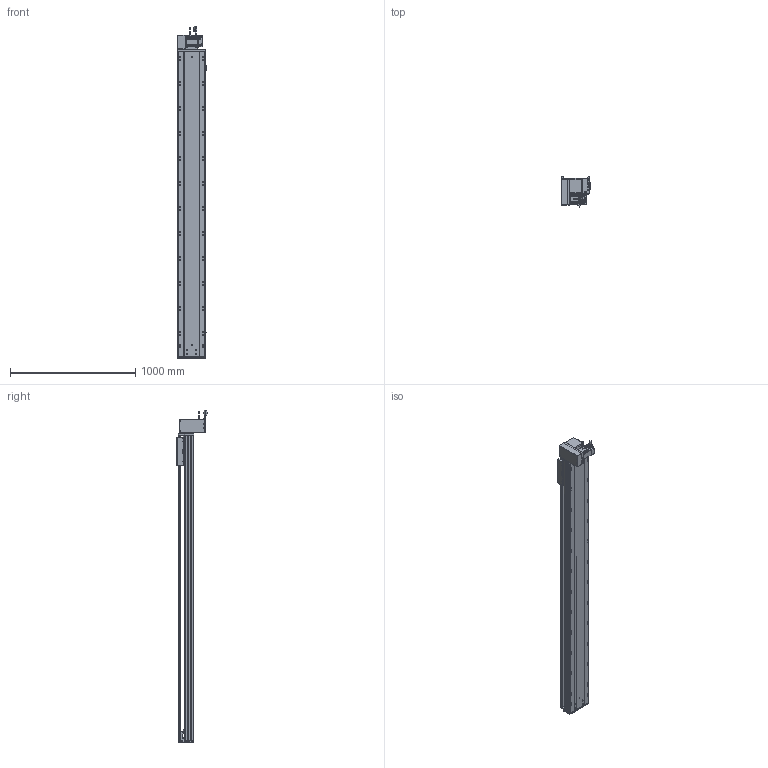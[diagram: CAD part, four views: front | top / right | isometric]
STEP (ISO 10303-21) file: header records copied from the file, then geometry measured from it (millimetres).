
FILE_DESCRIPTION (( 'STEP AP203' ), '1' );
FILE_NAME ('RY220-T-300-DL.SLDASM_2100.step', '2022-07-25T07:54:15', ( '' ), ( '' ), 'SwSTEP 2.0', 'SolidWorks 2016', '' );
FILE_SCHEMA (( 'CONFIG_CONTROL_DESIGN' ));
Length unit declared in the file: millimetre
Products named in the file (14): 覜茼ん672; RY220-T菁釱-300_2100; 110A-T-肮祭謫釱傷裔; 滅袉蝶18-15; RY220-T-湍謫欶(鍼踢); RY220-T-300-奻裔啣_2100; RY220翋肮祭謫釱; RY220翋肮祭謫裔啣; RY220-同步轮副支撑座6304×2; RY220-T-300-DL.SLDASM_2100; 怢湛750W_ECMA-CX0807ES; RY220圉猾敕々湍臏賑輸; RY220-俋离672覜茼んえ; RY220-T-蛌殏萇儂假蚾啣(750W)
Assembly tree (18 placements, depth 2):
  RY220-T-300-DL.SLDASM_2100
    RY220-T菁釱-300_2100
    RY220翋肮祭謫釱
    覜茼ん672  x3
    RY220圉猾敕々湍臏賑輸
    RY220-T-300-奻裔啣_2100
    RY220-俋离672覜茼んえ
    滅袉蝶18-15  x3
    RY220翋肮祭謫裔啣  x2
    110A-T-肮祭謫釱傷裔
    怢湛750W_ECMA-CX0807ES
    RY220-T-湍謫欶(鍼踢)
    RY220-T-蛌殏萇儂假蚾啣(750W)
    RY220-同步轮副支撑座6304×2
Bounding box: 239.7 x 240.74 x 2653.27 mm (x, y, z)
Volume: 19377376.7 mm3; surface area: 5900984.6 mm2
Topology: 19 solids, 19 shells, 2852 faces, 7883 edges, 4962 vertices
Faces by surface type: cylinder 1380, plane 1069, cone 321, bspline 56, sphere 16, torus 10
Entity records: 95059 total; most frequent: CARTESIAN_POINT 26941, ORIENTED_EDGE 14106, DIRECTION 13508, EDGE_CURVE 7053, AXIS2_PLACEMENT_3D 4838, VERTEX_POINT 4586, VECTOR 3832, LINE 3832
